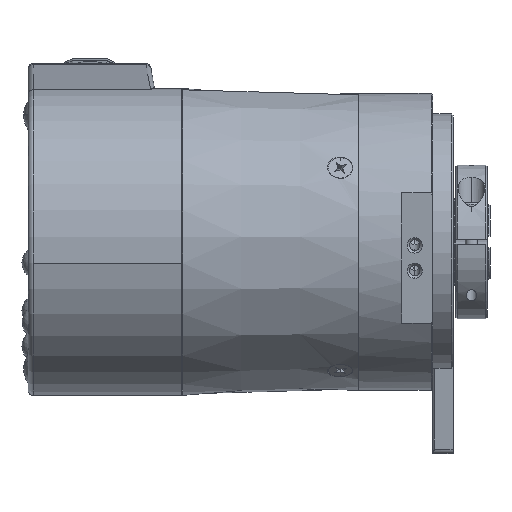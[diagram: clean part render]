
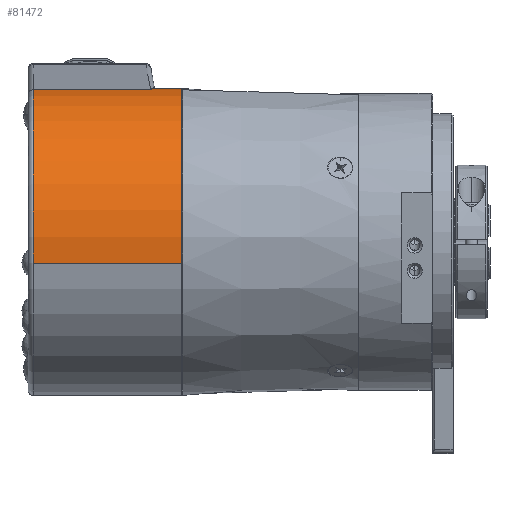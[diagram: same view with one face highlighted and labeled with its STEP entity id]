
A CAD part, front view. The second image highlights one B-rep face of the part: STEP entity #81472.
In plain terms, the highlighted cylindrical face has radius 30 mm (diameter 60 mm), a partial arc.
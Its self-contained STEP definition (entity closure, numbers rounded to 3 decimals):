
#2428 = B_SPLINE_CURVE_WITH_KNOTS ( 'NONE', 3,
 ( #53799, #10859, #75313, #32490, #82510, #39709, #89717, #46899, #3955, #54105 ),
 .UNSPECIFIED., .F., .F.,
 ( 4, 2, 2, 2, 4 ),
 ( 0., 0.002, 0.005, 0.007, 0.01 ),
 .UNSPECIFIED. ) ;
#3955 = CARTESIAN_POINT ( 'NONE',  ( -32.928, -3.401, 29.817 ) ) ;
#7889 = CARTESIAN_POINT ( 'NONE',  ( -56., -29.708, -4.175 ) ) ;
#8655 = CARTESIAN_POINT ( 'NONE',  ( -31.831, 5.232, 29.54 ) ) ;
#9448 = DIRECTION ( 'NONE',  ( 1., 0., 0. ) ) ;
#10859 = CARTESIAN_POINT ( 'NONE',  ( -31.81, 4.445, 29.68 ) ) ;
#10949 = VERTEX_POINT ( 'NONE', #87379 ) ;
#11573 = VERTEX_POINT ( 'NONE', #85402 ) ;
#12925 = DIRECTION ( 'NONE',  ( -1., 0., 0. ) ) ;
#13704 = VECTOR ( 'NONE', #65159, 1000. ) ;
#15212 = DIRECTION ( 'NONE',  ( 1., 0., 0. ) ) ;
#16916 = VERTEX_POINT ( 'NONE', #48854 ) ;
#20121 = DIRECTION ( 'NONE',  ( 0., -0.99, -0.139 ) ) ;
#20487 = AXIS2_PLACEMENT_3D ( 'NONE', #52377, #9448, #59558 ) ;
#21368 = VECTOR ( 'NONE', #64249, 1000. ) ;
#23002 = EDGE_CURVE ( 'NONE', #11573, #16916, #2428, .T. ) ;
#23274 = LINE ( 'NONE', #25684, #40134 ) ;
#25684 = CARTESIAN_POINT ( 'NONE',  ( -27., 29.708, 4.175 ) ) ;
#25761 = AXIS2_PLACEMENT_3D ( 'NONE', #58149, #15212, #65285 ) ;
#27277 = ORIENTED_EDGE ( 'NONE', *, *, #68391, .F. ) ;
#27347 = CARTESIAN_POINT ( 'NONE',  ( -27., 0., 0. ) ) ;
#27660 = CYLINDRICAL_SURFACE ( 'NONE', #31918, 30. ) ;
#29956 = CARTESIAN_POINT ( 'NONE',  ( -32.382, 27.835, 17.506 ) ) ;
#30863 = CARTESIAN_POINT ( 'NONE',  ( -27., -29.708, -4.175 ) ) ;
#31014 = CIRCLE ( 'NONE', #20487, 30. ) ;
#31674 = EDGE_CURVE ( 'NONE', #38500, #57255, #23274, .T. ) ;
#31802 = ORIENTED_EDGE ( 'NONE', *, *, #23002, .T. ) ;
#31918 = AXIS2_PLACEMENT_3D ( 'NONE', #27347, #12925, #20121 ) ;
#32490 = CARTESIAN_POINT ( 'NONE',  ( -31.994, 2.074, 29.939 ) ) ;
#35521 = CARTESIAN_POINT ( 'NONE',  ( -33., -4.175, 29.708 ) ) ;
#36761 = CARTESIAN_POINT ( 'NONE',  ( -32.382, 29.708, 4.175 ) ) ;
#38500 = VERTEX_POINT ( 'NONE', #68646 ) ;
#39709 = CARTESIAN_POINT ( 'NONE',  ( -32.341, -0.286, 30.009 ) ) ;
#40134 = VECTOR ( 'NONE', #75730, 1000. ) ;
#40484 = LINE ( 'NONE', #35521, #21368 ) ;
#40955 = CIRCLE ( 'NONE', #25761, 30. ) ;
#43455 = VERTEX_POINT ( 'NONE', #30863 ) ;
#46899 = CARTESIAN_POINT ( 'NONE',  ( -32.773, -2.624, 29.895 ) ) ;
#48854 = CARTESIAN_POINT ( 'NONE',  ( -33.084, -4.175, 29.708 ) ) ;
#48969 = FACE_OUTER_BOUND ( 'NONE', #61753, .T. ) ;
#51580 = CARTESIAN_POINT ( 'NONE',  ( -32.171, 18.487, 27.193 ) ) ;
#52377 = CARTESIAN_POINT ( 'NONE',  ( -56., 0., 0. ) ) ;
#52460 = ORIENTED_EDGE ( 'NONE', *, *, #76771, .T. ) ;
#53799 = CARTESIAN_POINT ( 'NONE',  ( -31.831, 5.232, 29.54 ) ) ;
#54105 = CARTESIAN_POINT ( 'NONE',  ( -33.084, -4.175, 29.708 ) ) ;
#56825 = ORIENTED_EDGE ( 'NONE', *, *, #65483, .F. ) ;
#57255 = VERTEX_POINT ( 'NONE', #36761 ) ;
#57916 =( BOUNDED_CURVE ( )  B_SPLINE_CURVE ( 3, ( #86846, #29956, #51580, #8655 ),
 .UNSPECIFIED., .F., .F. ) 
 B_SPLINE_CURVE_WITH_KNOTS ( ( 4, 4 ),
 ( 0., 1.256 ),
 .UNSPECIFIED. ) 
 CURVE ( )  GEOMETRIC_REPRESENTATION_ITEM ( )  RATIONAL_B_SPLINE_CURVE ( ( 1., 0.873, 0.873, 1. ) ) 
 REPRESENTATION_ITEM ( '' )  );
#58028 = CARTESIAN_POINT ( 'NONE',  ( -27., -29.708, -4.175 ) ) ;
#58149 = CARTESIAN_POINT ( 'NONE',  ( -27., 0., 0. ) ) ;
#59558 = DIRECTION ( 'NONE',  ( 0., 0.99, 0.139 ) ) ;
#61753 = EDGE_LOOP ( 'NONE', ( #56825, #88999, #52460, #31802, #67606, #90160, #27277 ) ) ;
#64249 = DIRECTION ( 'NONE',  ( -1., 0., 0. ) ) ;
#65159 = DIRECTION ( 'NONE',  ( -1., 0., 0. ) ) ;
#65285 = DIRECTION ( 'NONE',  ( 0., 0.99, 0.139 ) ) ;
#65483 = EDGE_CURVE ( 'NONE', #38500, #43455, #40955, .T. ) ;
#67606 = ORIENTED_EDGE ( 'NONE', *, *, #77271, .T. ) ;
#68365 = VERTEX_POINT ( 'NONE', #7889 ) ;
#68391 = EDGE_CURVE ( 'NONE', #43455, #68365, #89884, .T. ) ;
#68646 = CARTESIAN_POINT ( 'NONE',  ( -27., 29.708, 4.175 ) ) ;
#75313 = CARTESIAN_POINT ( 'NONE',  ( -31.851, 3.656, 29.787 ) ) ;
#75730 = DIRECTION ( 'NONE',  ( -1., 0., 0. ) ) ;
#76771 = EDGE_CURVE ( 'NONE', #57255, #11573, #57916, .T. ) ;
#77271 = EDGE_CURVE ( 'NONE', #16916, #10949, #40484, .T. ) ;
#81472 = ADVANCED_FACE ( 'NONE', ( #48969 ), #27660, .T. ) ;
#81785 = EDGE_CURVE ( 'NONE', #10949, #68365, #31014, .T. ) ;
#82510 = CARTESIAN_POINT ( 'NONE',  ( -32.098, 1.283, 29.983 ) ) ;
#85402 = CARTESIAN_POINT ( 'NONE',  ( -31.831, 5.232, 29.54 ) ) ;
#86846 = CARTESIAN_POINT ( 'NONE',  ( -32.382, 29.708, 4.175 ) ) ;
#87379 = CARTESIAN_POINT ( 'NONE',  ( -56., -4.175, 29.708 ) ) ;
#88999 = ORIENTED_EDGE ( 'NONE', *, *, #31674, .T. ) ;
#89717 = CARTESIAN_POINT ( 'NONE',  ( -32.479, -1.067, 29.991 ) ) ;
#89884 = LINE ( 'NONE', #58028, #13704 ) ;
#90160 = ORIENTED_EDGE ( 'NONE', *, *, #81785, .T. ) ;
